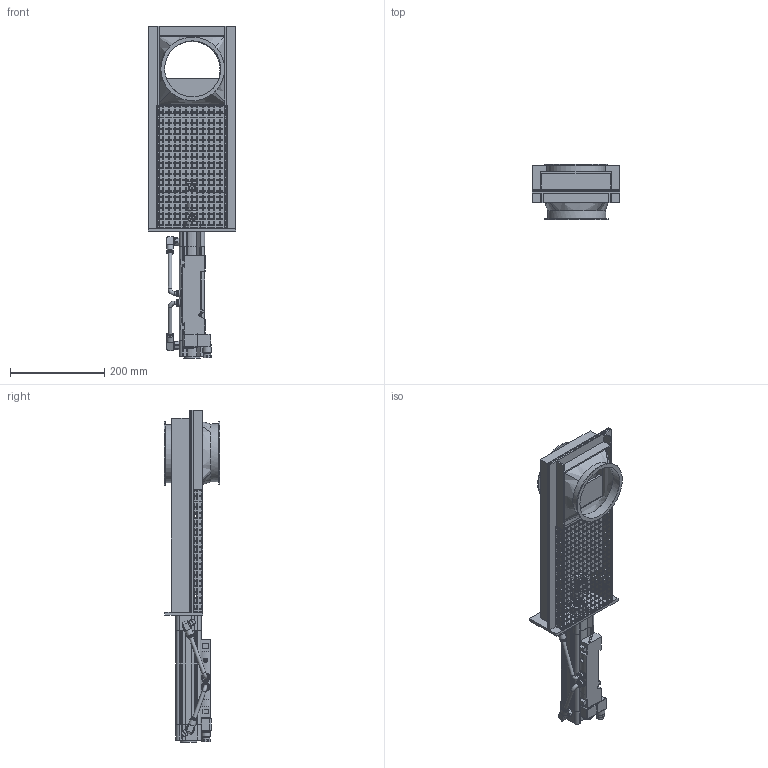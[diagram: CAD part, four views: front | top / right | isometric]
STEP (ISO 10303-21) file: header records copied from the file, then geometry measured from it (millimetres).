
FILE_DESCRIPTION((''),'2;1');
FILE_NAME('U:\Wolfgang\Marcel-3D\fertig\Kapitel 9\1221092.stp','2011-10-11T12:56:35',('iwienholt'),(''),'Autodesk Inventor 2010','Autodesk Inventor 2010','');
FILE_SCHEMA(('AUTOMOTIVE_DESIGN { 1 0 10303 214 1 1 1 1 }'));
Length unit declared in the file: millimetre
Products named in the file (20): 1221092; Deckel DN120; Boden DN120; Mittelteil DN120; Pneum.Schiebereinheit DN120; Zylinder 40-160; 532743_DNCB_40_160_PPV_A_6_01; 532743_DNCB_40_160_PPV_A_6_02; 537600_VUVB_S_B42_ZD_Q8_3AC1_6_0; 537600_VUVB_S_B42_ZD_Q8_3AC1_6_01; 537600_VUVB_S_B42_ZD_Q8_3AC1_6_02; 537600_VUVB_S_B42_ZD_Q8_3AC1_6_03; 4527_MSFG_24_42_50_60_6_0; 4527_MSFG_24_42_50_60_6_01; 4527_MSFG_24_42_50_60_6_02; 153414_QSRL_1_4_8_6_0; schlauch; 13570_CRSG_M12x125_6_0; Schieberplatte DN120; Lochblech DN120
Assembly tree (21 placements, depth 4):
  1221092
    Deckel DN120
    Boden DN120
    Mittelteil DN120
    Pneum.Schiebereinheit DN120
      Zylinder 40-160
        532743_DNCB_40_160_PPV_A_6_01
        532743_DNCB_40_160_PPV_A_6_02
      537600_VUVB_S_B42_ZD_Q8_3AC1_6_0
        537600_VUVB_S_B42_ZD_Q8_3AC1_6_01
        537600_VUVB_S_B42_ZD_Q8_3AC1_6_02
        537600_VUVB_S_B42_ZD_Q8_3AC1_6_03
      4527_MSFG_24_42_50_60_6_0
        4527_MSFG_24_42_50_60_6_01
        4527_MSFG_24_42_50_60_6_02
      153414_QSRL_1_4_8_6_0  x2
      schlauch  x2
      13570_CRSG_M12x125_6_0
      Schieberplatte DN120
    Lochblech DN120
Bounding box: 185 x 117 x 704 mm (x, y, z)
Volume: 1559331 mm3; surface area: 811504.2 mm2
Topology: 17 solids, 17 shells, 2358 faces, 6708 edges, 4419 vertices
Faces by surface type: plane 1765, cylinder 312, bspline 191, cone 84, torus 6
Full cylindrical faces by diameter (mm): 1 x3, 2.459 x1, 3 x2, 3.5 x1, 4 x1, 4.5 x1, 4.917 x8, 5 x2, 5.471 x2, 5.5 x1, 6 x17, 7.188 x1, 7.5 x4, 8 x9, 8.05 x1, 9 x1, 9.6 x2, 9.653 x1, 10.15 x2, 11.2 x2, 11.445 x2, 12 x4, 13.05 x2, 13.157 x2, 14 x6, 14.4 x4, 14.5 x2, 14.7 x6, 15.1 x2, 15.2 x1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
Entity records: 76036 total; most frequent: CARTESIAN_POINT 14976, ORIENTED_EDGE 12696, DIRECTION 11279, EDGE_CURVE 6348, VECTOR 5491, LINE 5491, VERTEX_POINT 4290, EDGE_LOOP 3286
